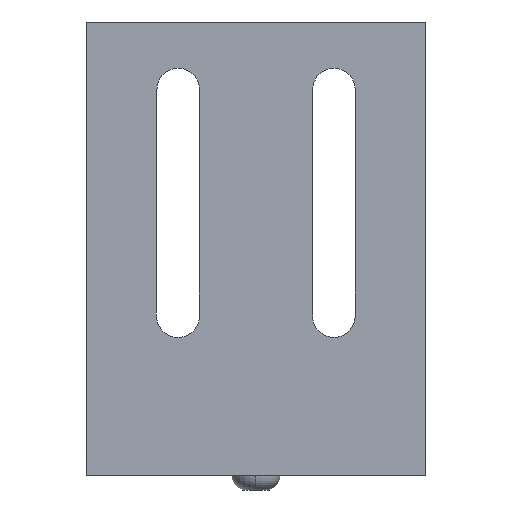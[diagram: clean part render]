
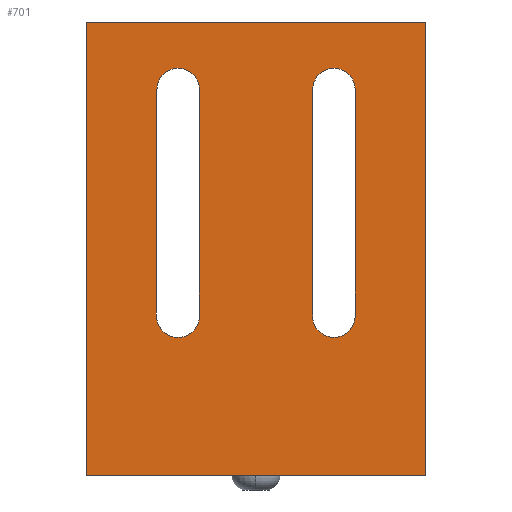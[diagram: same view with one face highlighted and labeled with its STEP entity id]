
A CAD part, front view. The second image highlights one B-rep face of the part: STEP entity #701.
In plain terms, the highlighted planar face has unit normal (0, -1, 0).
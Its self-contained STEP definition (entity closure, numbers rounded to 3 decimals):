
#342 = VERTEX_POINT ( 'NONE', #2199 ) ;
#344 = EDGE_CURVE ( 'NONE', #342, #345, #2198, .T. ) ;
#345 = VERTEX_POINT ( 'NONE', #2158 ) ;
#393 = VERTEX_POINT ( 'NONE', #2316 ) ;
#413 = EDGE_CURVE ( 'NONE', #393, #414, #2205, .T. ) ;
#414 = VERTEX_POINT ( 'NONE', #2200 ) ;
#576 = VERTEX_POINT ( 'NONE', #2632 ) ;
#675 = ORIENTED_EDGE ( 'NONE', *, *, #676, .F. ) ;
#676 = EDGE_CURVE ( 'NONE', #414, #681, #2799, .T. ) ;
#677 = ORIENTED_EDGE ( 'NONE', *, *, #413, .F. ) ;
#678 = ORIENTED_EDGE ( 'NONE', *, *, #706, .F. ) ;
#679 = ORIENTED_EDGE ( 'NONE', *, *, #680, .F. ) ;
#680 = EDGE_CURVE ( 'NONE', #681, #760, #2839, .T. ) ;
#681 = VERTEX_POINT ( 'NONE', #2834 ) ;
#689 = EDGE_CURVE ( 'NONE', #748, #342, #3917, .T. ) ;
#690 = EDGE_LOOP ( 'NONE', ( #758, #679, #675, #677, #678 ) ) ;
#701 = ADVANCED_FACE ( 'NONE', ( #3909, #3908, #3926 ), #3925, .F. ) ;
#702 = EDGE_LOOP ( 'NONE', ( #745, #749, #752, #754, #766 ) ) ;
#705 = EDGE_CURVE ( 'NONE', #755, #709, #2851, .T. ) ;
#706 = EDGE_CURVE ( 'NONE', #761, #393, #2841, .T. ) ;
#709 = VERTEX_POINT ( 'NONE', #2874 ) ;
#711 = ORIENTED_EDGE ( 'NONE', *, *, #712, .F. ) ;
#712 = EDGE_CURVE ( 'NONE', #576, #731, #2858, .T. ) ;
#713 = ORIENTED_EDGE ( 'NONE', *, *, #725, .T. ) ;
#714 = ORIENTED_EDGE ( 'NONE', *, *, #705, .T. ) ;
#725 = EDGE_CURVE ( 'NONE', #576, #755, #2844, .T. ) ;
#731 = VERTEX_POINT ( 'NONE', #2948 ) ;
#733 = EDGE_CURVE ( 'NONE', #709, #731, #2938, .T. ) ;
#745 = ORIENTED_EDGE ( 'NONE', *, *, #746, .F. ) ;
#746 = EDGE_CURVE ( 'NONE', #747, #748, #2949, .T. ) ;
#747 = VERTEX_POINT ( 'NONE', #2937 ) ;
#748 = VERTEX_POINT ( 'NONE', #2945 ) ;
#749 = ORIENTED_EDGE ( 'NONE', *, *, #750, .F. ) ;
#750 = EDGE_CURVE ( 'NONE', #751, #747, #2960, .T. ) ;
#751 = VERTEX_POINT ( 'NONE', #2955 ) ;
#752 = ORIENTED_EDGE ( 'NONE', *, *, #753, .F. ) ;
#753 = EDGE_CURVE ( 'NONE', #345, #751, #2954, .T. ) ;
#754 = ORIENTED_EDGE ( 'NONE', *, *, #344, .F. ) ;
#755 = VERTEX_POINT ( 'NONE', #3017 ) ;
#758 = ORIENTED_EDGE ( 'NONE', *, *, #759, .F. ) ;
#759 = EDGE_CURVE ( 'NONE', #760, #761, #3016, .T. ) ;
#760 = VERTEX_POINT ( 'NONE', #3021 ) ;
#761 = VERTEX_POINT ( 'NONE', #3032 ) ;
#764 = EDGE_LOOP ( 'NONE', ( #765, #711, #713, #714 ) ) ;
#765 = ORIENTED_EDGE ( 'NONE', *, *, #733, .T. ) ;
#766 = ORIENTED_EDGE ( 'NONE', *, *, #689, .F. ) ;
#2158 = CARTESIAN_POINT ( 'NONE',  ( 761.845, 53.552, 35.656 ) ) ;
#2159 = DIRECTION ( 'NONE',  ( 0., 0., -1. ) ) ;
#2195 = DIRECTION ( 'NONE',  ( 0., -1., 0. ) ) ;
#2196 = CARTESIAN_POINT ( 'NONE',  ( 757.069, 53.552, 35.656 ) ) ;
#2197 = AXIS2_PLACEMENT_3D ( 'NONE', #2196, #2195, #2159 ) ;
#2198 = CIRCLE ( 'NONE', #2197, 4.776 ) ;
#2199 = CARTESIAN_POINT ( 'NONE',  ( 757.069, 53.552, 30.88 ) ) ;
#2200 = CARTESIAN_POINT ( 'NONE',  ( 726.92, 53.552, 35.656 ) ) ;
#2201 = DIRECTION ( 'NONE',  ( 0., 0., -1. ) ) ;
#2202 = DIRECTION ( 'NONE',  ( 0., -1., 0. ) ) ;
#2203 = CARTESIAN_POINT ( 'NONE',  ( 722.101, 53.552, 35.656 ) ) ;
#2204 = AXIS2_PLACEMENT_3D ( 'NONE', #2203, #2202, #2201 ) ;
#2205 = CIRCLE ( 'NONE', #2204, 4.819 ) ;
#2316 = CARTESIAN_POINT ( 'NONE',  ( 722.101, 53.552, 30.837 ) ) ;
#2632 = CARTESIAN_POINT ( 'NONE',  ( 701.507, 53.552, 101.6 ) ) ;
#2796 = DIRECTION ( 'NONE',  ( 0., 0., 1. ) ) ;
#2797 = VECTOR ( 'NONE', #2796, 1000. ) ;
#2798 = CARTESIAN_POINT ( 'NONE',  ( 726.92, 53.552, 35.656 ) ) ;
#2799 = LINE ( 'NONE', #2798, #2797 ) ;
#2834 = CARTESIAN_POINT ( 'NONE',  ( 726.92, 53.552, 86.456 ) ) ;
#2835 = DIRECTION ( 'NONE',  ( 0., 0., -1. ) ) ;
#2836 = DIRECTION ( 'NONE',  ( 0., -1., 0. ) ) ;
#2837 = CARTESIAN_POINT ( 'NONE',  ( 722.157, 53.552, 86.456 ) ) ;
#2838 = AXIS2_PLACEMENT_3D ( 'NONE', #2837, #2836, #2835 ) ;
#2839 = CIRCLE ( 'NONE', #2838, 4.763 ) ;
#2840 = CARTESIAN_POINT ( 'NONE',  ( 777.707, 53.552, 0. ) ) ;
#2841 = CIRCLE ( 'NONE', #2872, 4.819 ) ;
#2842 = VECTOR ( 'NONE', #2869, 1000. ) ;
#2843 = CARTESIAN_POINT ( 'NONE',  ( 701.507, 53.552, 9.525 ) ) ;
#2844 = LINE ( 'NONE', #2843, #2842 ) ;
#2851 = LINE ( 'NONE', #2840, #2884 ) ;
#2853 = DIRECTION ( 'NONE',  ( 1., 0., 0. ) ) ;
#2855 = DIRECTION ( 'NONE',  ( 1., 0., 0. ) ) ;
#2856 = VECTOR ( 'NONE', #2855, 1000. ) ;
#2857 = CARTESIAN_POINT ( 'NONE',  ( 701.507, 53.552, 101.6 ) ) ;
#2858 = LINE ( 'NONE', #2857, #2856 ) ;
#2869 = DIRECTION ( 'NONE',  ( 0., 0., -1. ) ) ;
#2872 = AXIS2_PLACEMENT_3D ( 'NONE', #2882, #2883, #2875 ) ;
#2874 = CARTESIAN_POINT ( 'NONE',  ( 777.707, 53.552, 0. ) ) ;
#2875 = DIRECTION ( 'NONE',  ( 0., 0., -1. ) ) ;
#2882 = CARTESIAN_POINT ( 'NONE',  ( 722.101, 53.552, 35.656 ) ) ;
#2883 = DIRECTION ( 'NONE',  ( 0., -1., 0. ) ) ;
#2884 = VECTOR ( 'NONE', #2853, 1000. ) ;
#2936 = VECTOR ( 'NONE', #2962, 1000. ) ;
#2937 = CARTESIAN_POINT ( 'NONE',  ( 752.32, 53.552, 86.456 ) ) ;
#2938 = LINE ( 'NONE', #2946, #2941 ) ;
#2941 = VECTOR ( 'NONE', #2944, 1000. ) ;
#2943 = CARTESIAN_POINT ( 'NONE',  ( 752.32, 53.552, 86.456 ) ) ;
#2944 = DIRECTION ( 'NONE',  ( 0., 0., 1. ) ) ;
#2945 = CARTESIAN_POINT ( 'NONE',  ( 752.32, 53.552, 36.165 ) ) ;
#2946 = CARTESIAN_POINT ( 'NONE',  ( 777.707, 53.552, 9.525 ) ) ;
#2948 = CARTESIAN_POINT ( 'NONE',  ( 777.707, 53.552, 101.6 ) ) ;
#2949 = LINE ( 'NONE', #2943, #2936 ) ;
#2951 = DIRECTION ( 'NONE',  ( 0., 0., 1. ) ) ;
#2952 = VECTOR ( 'NONE', #2951, 1000. ) ;
#2953 = CARTESIAN_POINT ( 'NONE',  ( 761.845, 53.552, 86.456 ) ) ;
#2954 = LINE ( 'NONE', #2953, #2952 ) ;
#2955 = CARTESIAN_POINT ( 'NONE',  ( 761.845, 53.552, 86.456 ) ) ;
#2956 = DIRECTION ( 'NONE',  ( 0., 0., -1. ) ) ;
#2957 = DIRECTION ( 'NONE',  ( 0., -1., 0. ) ) ;
#2958 = CARTESIAN_POINT ( 'NONE',  ( 757.082, 53.552, 86.456 ) ) ;
#2959 = AXIS2_PLACEMENT_3D ( 'NONE', #2958, #2957, #2956 ) ;
#2960 = CIRCLE ( 'NONE', #2959, 4.763 ) ;
#2962 = DIRECTION ( 'NONE',  ( 0., 0., -1. ) ) ;
#3003 = DIRECTION ( 'NONE',  ( -0.002, 0., -1. ) ) ;
#3008 = VECTOR ( 'NONE', #3003, 1000. ) ;
#3009 = CARTESIAN_POINT ( 'NONE',  ( 717.395, 53.552, 86.467 ) ) ;
#3016 = LINE ( 'NONE', #3009, #3008 ) ;
#3017 = CARTESIAN_POINT ( 'NONE',  ( 701.507, 53.552, 0. ) ) ;
#3021 = CARTESIAN_POINT ( 'NONE',  ( 717.395, 53.552, 86.467 ) ) ;
#3032 = CARTESIAN_POINT ( 'NONE',  ( 717.282, 53.552, 35.667 ) ) ;
#3886 = CARTESIAN_POINT ( 'NONE',  ( 757.069, 53.552, 35.656 ) ) ;
#3895 = DIRECTION ( 'NONE',  ( 0., 0., 1. ) ) ;
#3896 = DIRECTION ( 'NONE',  ( 0., 1., 0. ) ) ;
#3897 = CARTESIAN_POINT ( 'NONE',  ( 777.707, 53.552, 0. ) ) ;
#3908 = FACE_BOUND ( 'NONE', #690, .T. ) ;
#3909 = FACE_BOUND ( 'NONE', #702, .T. ) ;
#3912 = DIRECTION ( 'NONE',  ( 0., -1., 0. ) ) ;
#3916 = AXIS2_PLACEMENT_3D ( 'NONE', #3886, #3912, #3919 ) ;
#3917 = CIRCLE ( 'NONE', #3916, 4.776 ) ;
#3919 = DIRECTION ( 'NONE',  ( 0., 0., -1. ) ) ;
#3922 = AXIS2_PLACEMENT_3D ( 'NONE', #3897, #3896, #3895 ) ;
#3925 = PLANE ( 'NONE',  #3922 ) ;
#3926 = FACE_OUTER_BOUND ( 'NONE', #764, .T. ) ;
